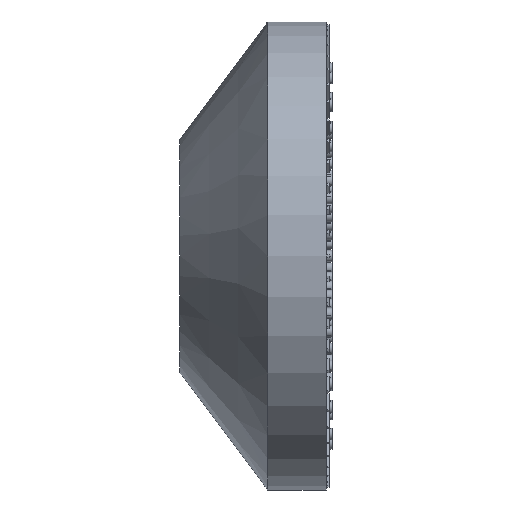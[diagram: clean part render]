
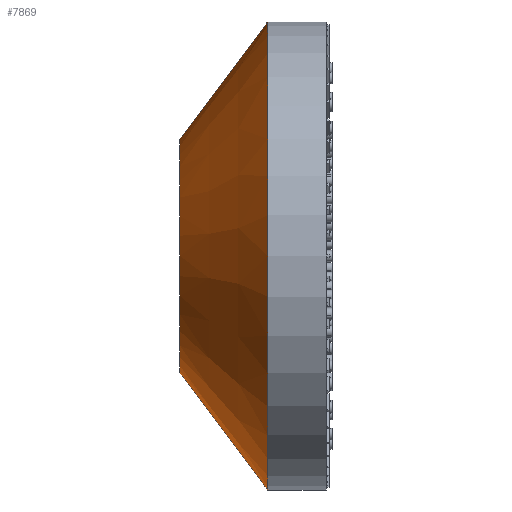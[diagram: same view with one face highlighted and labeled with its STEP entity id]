
A CAD part, left-side view. The second image highlights one B-rep face of the part: STEP entity #7869.
In plain terms, the highlighted conical face has half-angle 53.13 degrees and reference radius 20 mm.
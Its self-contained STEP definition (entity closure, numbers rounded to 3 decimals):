
#9 = CONICAL_SURFACE ( 'NONE', #14044, 20., 0.927 ) ;
#448 = FACE_OUTER_BOUND ( 'NONE', #1416, .T. ) ;
#724 = ORIENTED_EDGE ( 'NONE', *, *, #13510, .F. ) ;
#788 = DIRECTION ( 'NONE',  ( 0., -1., 0. ) ) ;
#1282 = CARTESIAN_POINT ( 'NONE',  ( 0., 25., 20. ) ) ;
#1416 = EDGE_LOOP ( 'NONE', ( #10197, #6178, #14417, #724 ) ) ;
#1588 = CIRCLE ( 'NONE', #9460, 40. ) ;
#1813 = CARTESIAN_POINT ( 'NONE',  ( 0., 25., 20. ) ) ;
#2413 = VECTOR ( 'NONE', #15956, 1000. ) ;
#2590 = EDGE_CURVE ( 'NONE', #11915, #16837, #17459, .T. ) ;
#2980 = VECTOR ( 'NONE', #5036, 1000. ) ;
#3490 = DIRECTION ( 'NONE',  ( 0., 1., 0. ) ) ;
#5036 = DIRECTION ( 'NONE',  ( 0., -0.6, -0.8 ) ) ;
#6178 = ORIENTED_EDGE ( 'NONE', *, *, #18219, .F. ) ;
#7868 = CARTESIAN_POINT ( 'NONE',  ( 0., 10., 40. ) ) ;
#7869 = ADVANCED_FACE ( 'NONE', ( #448 ), #9, .T. ) ;
#8005 = CARTESIAN_POINT ( 'NONE',  ( 0., 25., 0. ) ) ;
#8434 = VERTEX_POINT ( 'NONE', #15311 ) ;
#9280 = CARTESIAN_POINT ( 'NONE',  ( 0., 10., 0. ) ) ;
#9460 = AXIS2_PLACEMENT_3D ( 'NONE', #9280, #788, #10695 ) ;
#10197 = ORIENTED_EDGE ( 'NONE', *, *, #2590, .F. ) ;
#10695 = DIRECTION ( 'NONE',  ( 0., 0., 1. ) ) ;
#11915 = VERTEX_POINT ( 'NONE', #1282 ) ;
#11973 = CARTESIAN_POINT ( 'NONE',  ( 0., 25., 0. ) ) ;
#12715 = CARTESIAN_POINT ( 'NONE',  ( 0., 25., -20. ) ) ;
#13281 = VERTEX_POINT ( 'NONE', #12715 ) ;
#13422 = DIRECTION ( 'NONE',  ( 0., 0., 1. ) ) ;
#13510 = EDGE_CURVE ( 'NONE', #16837, #8434, #1588, .T. ) ;
#13527 = CARTESIAN_POINT ( 'NONE',  ( 0., 25., -20. ) ) ;
#14044 = AXIS2_PLACEMENT_3D ( 'NONE', #8005, #17924, #15084 ) ;
#14417 = ORIENTED_EDGE ( 'NONE', *, *, #17341, .T. ) ;
#15084 = DIRECTION ( 'NONE',  ( 0., 0., -1. ) ) ;
#15311 = CARTESIAN_POINT ( 'NONE',  ( 0., 10., -40. ) ) ;
#15956 = DIRECTION ( 'NONE',  ( 0., -0.6, 0.8 ) ) ;
#16353 = AXIS2_PLACEMENT_3D ( 'NONE', #11973, #3490, #13422 ) ;
#16777 = CIRCLE ( 'NONE', #16353, 20. ) ;
#16837 = VERTEX_POINT ( 'NONE', #7868 ) ;
#17341 = EDGE_CURVE ( 'NONE', #13281, #8434, #18033, .T. ) ;
#17459 = LINE ( 'NONE', #1813, #2413 ) ;
#17924 = DIRECTION ( 'NONE',  ( 0., -1., 0. ) ) ;
#18033 = LINE ( 'NONE', #13527, #2980 ) ;
#18219 = EDGE_CURVE ( 'NONE', #13281, #11915, #16777, .T. ) ;
